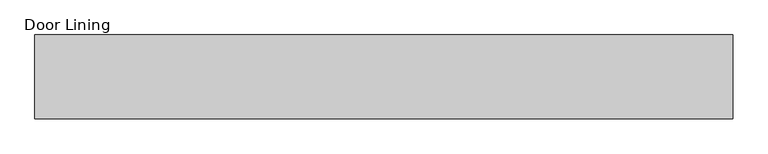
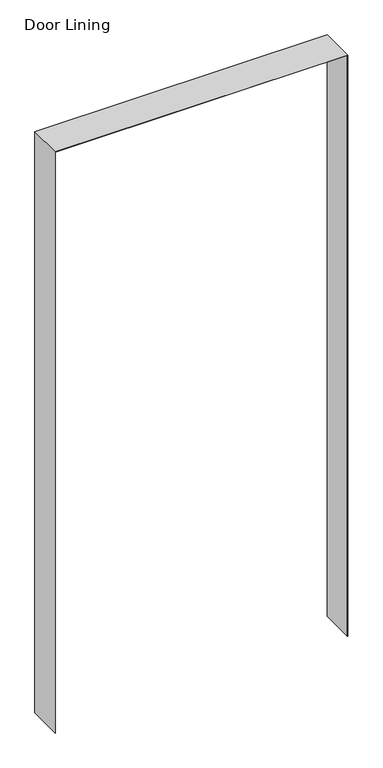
"""IFC4 building model written with IfcOpenShell, lengths in millimetres: proxy geometry, Dafa_ExFoil_Lining_Foil 2 x double adhesive-WallBased : Door Lining."""

from ifc_helpers import new_model, si_unit, frame, origin, place, context, project, spatial, polyline, outline, extrude, source, transform, mapped, element, save


def door_lining_f05a702a(model_context):
    return source(origin(), model_context, "Body", "SweptSolid", [
        extrude(outline(polyline([(2100.0, 625.0), (2100.0, -375.0), (0.0, -375.0), (0.0, -374.0), (2099.0, -374.0), (2099.0, 624.0), (0.0, 624.0), (0.0, 625.0), (2100.0, 625.0)])), frame((0.0, -150.0, 0.0), z_axis=(0.0, 1.0, 0.0), x_axis=(0.0, 0.0, 1.0)), (0.0, 0.0, 1.0), 120.0),
    ])


if __name__ == "__main__":
    model = new_model("IFC4")
    model_context = context("Model", 3, world=origin())
    ifc_project = project(units=[si_unit("LENGTHUNIT", "METRE", prefix="MILLI")], contexts=[model_context])
    site = spatial("IfcSite", under=ifc_project)
    building = spatial("IfcBuilding", under=site)
    placement = place(None, origin())
    door_lining_shape = door_lining_f05a702a(model_context)
    element("IfcBuildingElementProxy", 1, Name="Dafa_ExFoil_Lining_Foil 2 x double adhesive-WallBased : Door Lining", ObjectType="Dafa_ExFoil_Lining_Foil 2 x double adhesive-WallBased : Door Lining", at=placement, inside=building, context=model_context, shape_type="MappedRepresentation", body=[
        mapped(door_lining_shape, transform((0.0, 0.0, 0.0), x_axis=(1.0, 0.0, 0.0), y_axis=(0.0, 1.0, 0.0), z_axis=(0.0, 0.0, 1.0))),
    ])
    save(model, "model.ifc")
